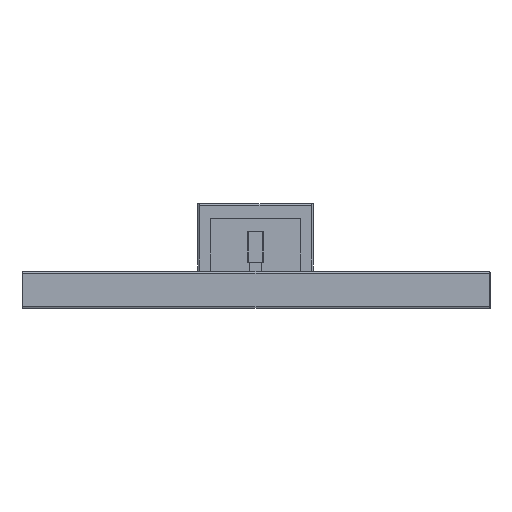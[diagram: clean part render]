
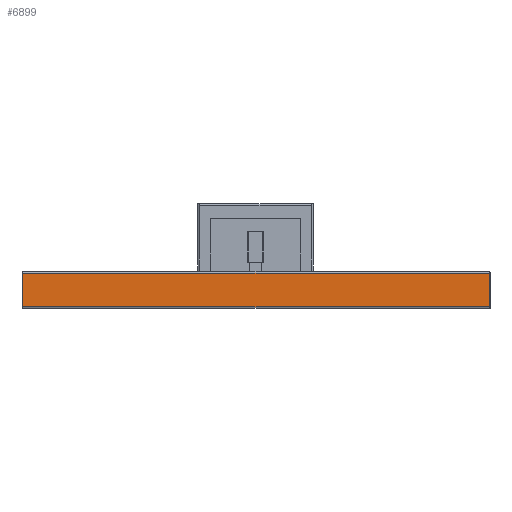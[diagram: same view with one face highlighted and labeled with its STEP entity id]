
A CAD part, front view. The second image highlights one B-rep face of the part: STEP entity #6899.
In plain terms, the highlighted planar face has unit normal (0, -1, 0).
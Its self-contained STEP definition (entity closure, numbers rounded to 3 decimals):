
#6171=DIRECTION('',(0.,0.,-1.));
#6172=VECTOR('',#6171,44.);
#6173=CARTESIAN_POINT('',(307.5,0.,22.));
#6174=LINE('',#6173,#6172);
#6179=DIRECTION('',(0.,0.,1.));
#6180=VECTOR('',#6179,44.);
#6181=CARTESIAN_POINT('',(-307.5,0.,-22.));
#6182=LINE('',#6181,#6180);
#6186=DIRECTION('',(1.,0.,0.));
#6187=VECTOR('',#6186,615.);
#6188=CARTESIAN_POINT('',(-307.5,0.,22.));
#6189=LINE('',#6188,#6187);
#6246=DIRECTION('',(-1.,0.,0.));
#6247=VECTOR('',#6246,615.);
#6248=CARTESIAN_POINT('',(307.5,0.,-22.));
#6249=LINE('',#6248,#6247);
#6820=CARTESIAN_POINT('',(-307.5,0.,-22.));
#6821=CARTESIAN_POINT('',(-307.5,0.,22.));
#6822=VERTEX_POINT('',#6820);
#6823=VERTEX_POINT('',#6821);
#6824=CARTESIAN_POINT('',(307.5,0.,22.));
#6825=CARTESIAN_POINT('',(307.5,0.,-22.));
#6826=VERTEX_POINT('',#6824);
#6827=VERTEX_POINT('',#6825);
#6884=CARTESIAN_POINT('',(0.,0.,0.));
#6885=DIRECTION('',(0.,1.,0.));
#6886=DIRECTION('',(1.,0.,0.));
#6887=AXIS2_PLACEMENT_3D('',#6884,#6885,#6886);
#6888=PLANE('',#6887);
#6890=ORIENTED_EDGE('',*,*,#6889,.T.);
#6892=ORIENTED_EDGE('',*,*,#6891,.T.);
#6894=ORIENTED_EDGE('',*,*,#6893,.T.);
#6896=ORIENTED_EDGE('',*,*,#6895,.T.);
#6897=EDGE_LOOP('',(#6890,#6892,#6894,#6896));
#6898=FACE_OUTER_BOUND('',#6897,.F.);
#6889=EDGE_CURVE('',#6823,#6826,#6189,.T.);
#6891=EDGE_CURVE('',#6826,#6827,#6174,.T.);
#6893=EDGE_CURVE('',#6827,#6822,#6249,.T.);
#6895=EDGE_CURVE('',#6822,#6823,#6182,.T.);
#6899=ADVANCED_FACE('',(#6898),#6888,.F.);
